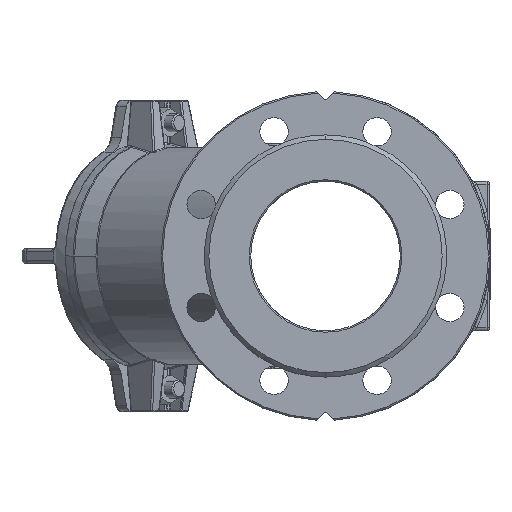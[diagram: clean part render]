
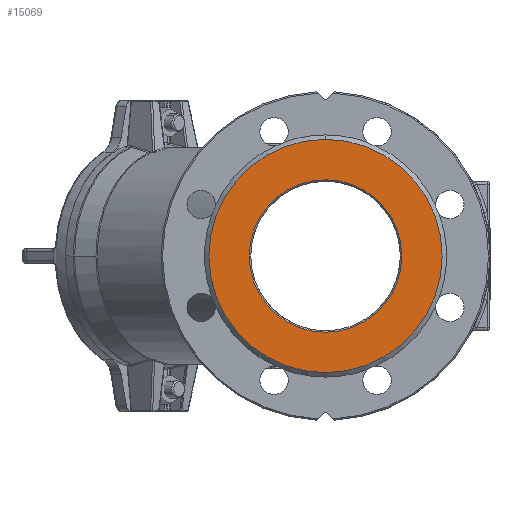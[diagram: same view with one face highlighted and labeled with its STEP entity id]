
A CAD part, left-side view. The second image highlights one B-rep face of the part: STEP entity #15069.
In plain terms, the highlighted planar face has unit normal (-1, 0, 0).
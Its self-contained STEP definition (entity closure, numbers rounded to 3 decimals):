
#329 = DIRECTION ( 'NONE',  ( 1., 0., 0. ) ) ;
#1268 = VERTEX_POINT ( 'NONE', #27979 ) ;
#2519 = VERTEX_POINT ( 'NONE', #38777 ) ;
#3065 = VERTEX_POINT ( 'NONE', #15167 ) ;
#3092 = EDGE_CURVE ( 'NONE', #3065, #2519, #3854, .T. ) ;
#3819 = EDGE_CURVE ( 'NONE', #2519, #3065, #12915, .T. ) ;
#3854 = CIRCLE ( 'NONE', #37289, 78. ) ;
#3980 = ORIENTED_EDGE ( 'NONE', *, *, #3092, .T. ) ;
#4169 = DIRECTION ( 'NONE',  ( 1., 0., 0. ) ) ;
#6090 = DIRECTION ( 'NONE',  ( 0., 0., 1. ) ) ;
#6748 = CIRCLE ( 'NONE', #9437, 51. ) ;
#7251 = DIRECTION ( 'NONE',  ( 0., 0., 1. ) ) ;
#8802 = ORIENTED_EDGE ( 'NONE', *, *, #16791, .T. ) ;
#9437 = AXIS2_PLACEMENT_3D ( 'NONE', #39825, #329, #6090 ) ;
#9990 = DIRECTION ( 'NONE',  ( 0., 0., 1. ) ) ;
#12904 = ORIENTED_EDGE ( 'NONE', *, *, #16363, .T. ) ;
#12915 = CIRCLE ( 'NONE', #22125, 78. ) ;
#13149 = CARTESIAN_POINT ( 'NONE',  ( -304.166, -31.147, -0.014 ) ) ;
#14320 = DIRECTION ( 'NONE',  ( -1., 0., 0. ) ) ;
#15069 = ADVANCED_FACE ( 'NONE', ( #33127, #16355 ), #35799, .T. ) ;
#15167 = CARTESIAN_POINT ( 'NONE',  ( -304.166, -31.147, -78.014 ) ) ;
#16355 = FACE_OUTER_BOUND ( 'NONE', #17576, .T. ) ;
#16363 = EDGE_CURVE ( 'NONE', #27615, #1268, #6748, .T. ) ;
#16791 = EDGE_CURVE ( 'NONE', #1268, #27615, #18217, .T. ) ;
#17576 = EDGE_LOOP ( 'NONE', ( #3980, #39835 ) ) ;
#18217 = CIRCLE ( 'NONE', #34119, 51. ) ;
#20738 = CARTESIAN_POINT ( 'NONE',  ( -304.166, -31.147, -0.014 ) ) ;
#21383 = DIRECTION ( 'NONE',  ( -1., 0., 0. ) ) ;
#22125 = AXIS2_PLACEMENT_3D ( 'NONE', #13149, #22543, #7251 ) ;
#22477 = AXIS2_PLACEMENT_3D ( 'NONE', #20738, #14320, #23833 ) ;
#22543 = DIRECTION ( 'NONE',  ( -1., 0., 0. ) ) ;
#22557 = CARTESIAN_POINT ( 'NONE',  ( -304.166, -31.147, -0.014 ) ) ;
#23833 = DIRECTION ( 'NONE',  ( 0., 0., 1. ) ) ;
#25231 = DIRECTION ( 'NONE',  ( 0., 0., 1. ) ) ;
#27615 = VERTEX_POINT ( 'NONE', #32938 ) ;
#27979 = CARTESIAN_POINT ( 'NONE',  ( -304.166, -31.147, -51.014 ) ) ;
#30515 = CARTESIAN_POINT ( 'NONE',  ( -304.166, -31.147, -0.014 ) ) ;
#32938 = CARTESIAN_POINT ( 'NONE',  ( -304.166, -31.147, 50.986 ) ) ;
#33127 = FACE_BOUND ( 'NONE', #37197, .T. ) ;
#34119 = AXIS2_PLACEMENT_3D ( 'NONE', #22557, #4169, #25231 ) ;
#35799 = PLANE ( 'NONE',  #22477 ) ;
#37197 = EDGE_LOOP ( 'NONE', ( #12904, #8802 ) ) ;
#37289 = AXIS2_PLACEMENT_3D ( 'NONE', #30515, #21383, #9990 ) ;
#38777 = CARTESIAN_POINT ( 'NONE',  ( -304.166, -31.147, 77.986 ) ) ;
#39825 = CARTESIAN_POINT ( 'NONE',  ( -304.166, -31.147, -0.014 ) ) ;
#39835 = ORIENTED_EDGE ( 'NONE', *, *, #3819, .T. ) ;
